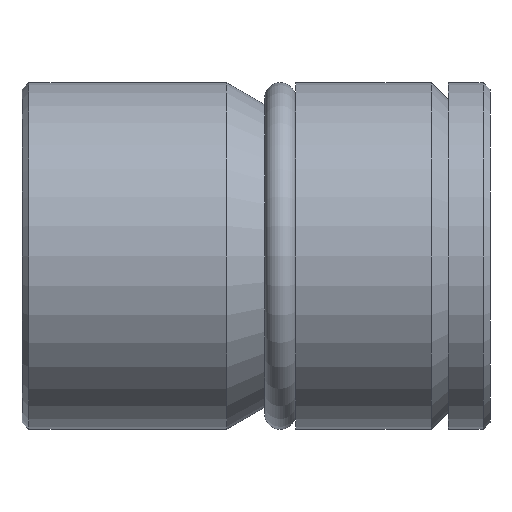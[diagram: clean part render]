
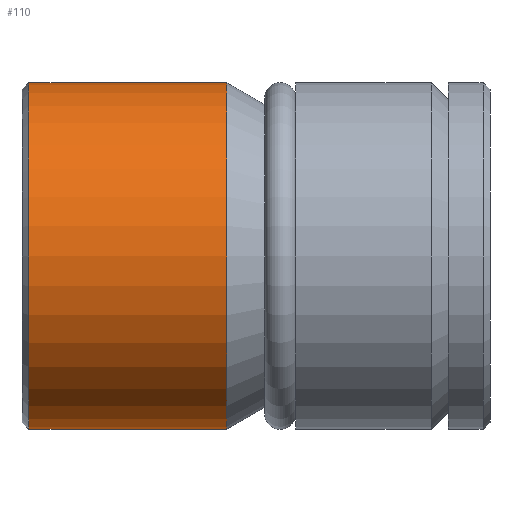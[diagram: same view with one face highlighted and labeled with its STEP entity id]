
A CAD part, front view. The second image highlights one B-rep face of the part: STEP entity #110.
In plain terms, the highlighted cylindrical face has radius 5 mm (diameter 10 mm), a full revolution.
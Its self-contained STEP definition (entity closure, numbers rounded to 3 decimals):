
#110 = ADVANCED_FACE( '', ( #245, #246 ), #247, .T. );
#245 = FACE_OUTER_BOUND( '', #404, .T. );
#246 = FACE_OUTER_BOUND( '', #405, .T. );
#247 = CYLINDRICAL_SURFACE( '', #406, 5. );
#404 = EDGE_LOOP( '', ( #658 ) );
#405 = EDGE_LOOP( '', ( #659 ) );
#406 = AXIS2_PLACEMENT_3D( '', #660, #661, #662 );
#658 = ORIENTED_EDGE( '', *, *, #915, .F. );
#659 = ORIENTED_EDGE( '', *, *, #854, .T. );
#660 = CARTESIAN_POINT( '', ( 13.5, 0., 0. ) );
#661 = DIRECTION( '', ( -1., 0., 0. ) );
#662 = DIRECTION( '', ( 0., 0., -1. ) );
#854 = EDGE_CURVE( '', #1002, #1002, #1003, .T. );
#915 = EDGE_CURVE( '', #1094, #1094, #1095, .T. );
#1002 = VERTEX_POINT( '', #1248 );
#1003 = CIRCLE( '', #1249, 5. );
#1094 = VERTEX_POINT( '', #1365 );
#1095 = CIRCLE( '', #1366, 5. );
#1248 = CARTESIAN_POINT( '', ( 0.2, 0., -5. ) );
#1249 = AXIS2_PLACEMENT_3D( '', #1458, #1459, #1460 );
#1365 = CARTESIAN_POINT( '', ( 5.9, 0., -5. ) );
#1366 = AXIS2_PLACEMENT_3D( '', #1537, #1538, #1539 );
#1458 = CARTESIAN_POINT( '', ( 0.2, 0., 0. ) );
#1459 = DIRECTION( '', ( 1., 0., 0. ) );
#1460 = DIRECTION( '', ( 0., 0., -1. ) );
#1537 = CARTESIAN_POINT( '', ( 5.9, 0., 0. ) );
#1538 = DIRECTION( '', ( 1., 0., 0. ) );
#1539 = DIRECTION( '', ( 0., 0., -1. ) );
